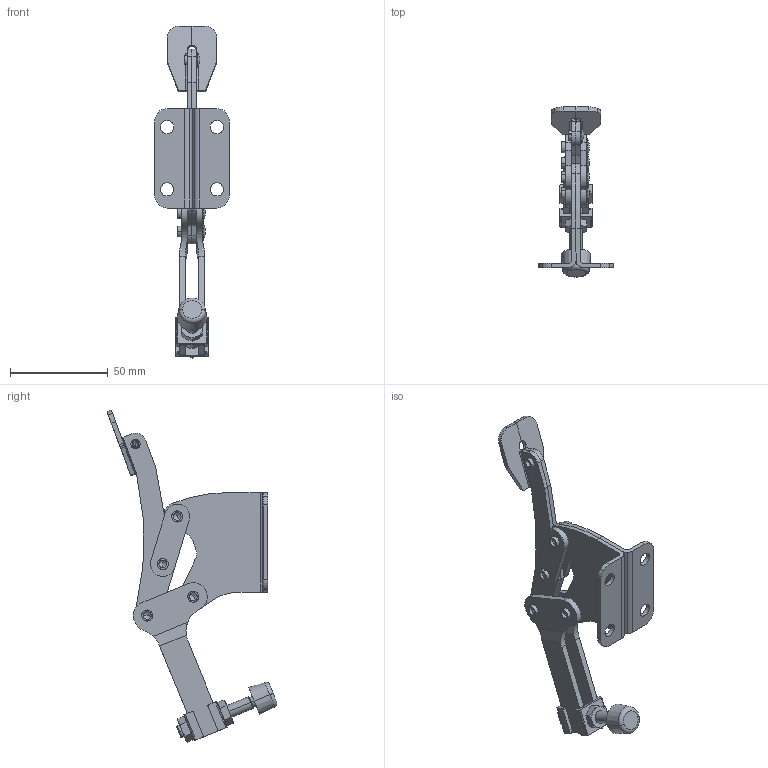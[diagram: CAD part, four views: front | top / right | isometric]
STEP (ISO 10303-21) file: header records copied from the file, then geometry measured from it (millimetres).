
FILE_DESCRIPTION((''),'2;1');
FILE_NAME('C:\lapeer-mfg\H-400\step\H-400x20.stp','2005-02-06T08:36:19',('rtaylor'),(''),'Autodesk Inventor 9','Autodesk Inventor 9','');
FILE_SCHEMA(('AUTOMOTIVE_DESIGN { 1 0 10303 214 1 1 1 1 }'));
Length unit declared in the file: inch
Products named in the file (16): H-400x20; 110027L; 110027R; 300039; 100039L; 100039r; 150047; 130015; 150012; W-470007; 170007; 170003; 171002; 4 - 20; 120031L; 120031R
Assembly tree (21 placements, depth 3):
  H-400x20
    110027L
    110027R
    300039
      100039L
      100039r
      150047
    130015  x2
    150012  x4
    W-470007
      170007
      170003
      171002  x2
      4 - 20  x2
    120031L
    120031R
Bounding box: 38.1 x 86.71 x 169.49 mm (x, y, z)
Volume: 37566.5 mm3; surface area: 36489.2 mm2
Topology: 19 solids, 19 shells, 429 faces, 1090 edges, 700 vertices
Faces by surface type: bspline 143, cylinder 106, plane 97, cone 44, torus 32, sphere 7
Entity records: 12016 total; most frequent: CARTESIAN_POINT 3801, DIRECTION 1666, ORIENTED_EDGE 1650, EDGE_CURVE 825, AXIS2_PLACEMENT_3D 647, VERTEX_POINT 538, CIRCLE 399, VECTOR 372
